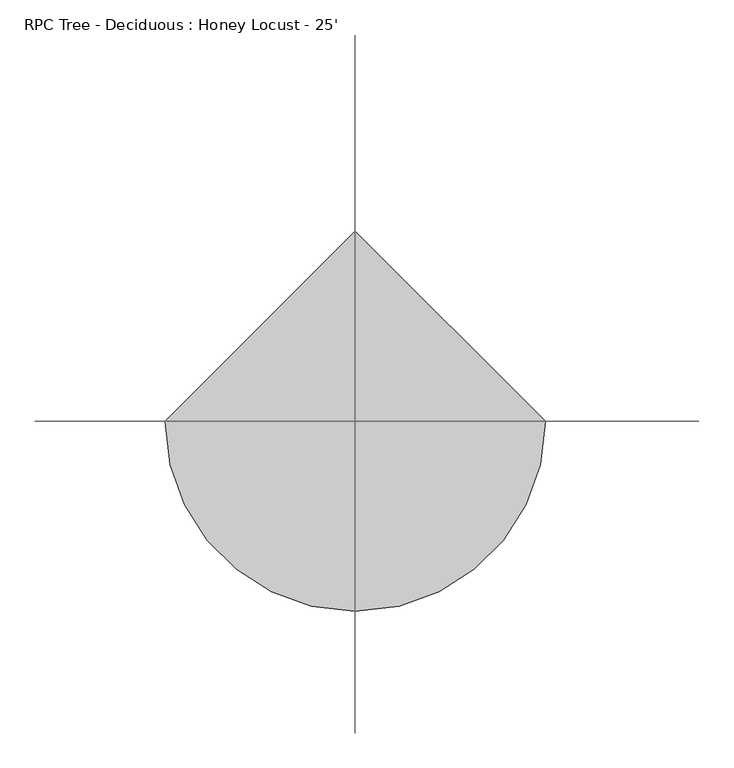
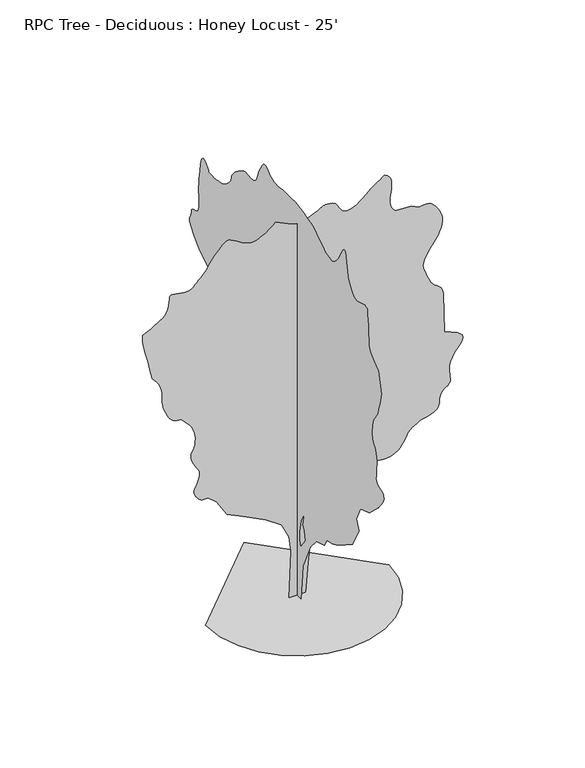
"""IFC4 building model written with IfcOpenShell, lengths in millimetres: geographic element geometry, RPC Tree - Deciduous : Honey Locust - 25'."""

from ifc_helpers import new_model, si_unit, origin, place, context, project, spatial, triangles, source, transform, mapped, element, save


def rpc_tree_deciduous_honey_locust_25_cc46a1f1(model_context):
    return source(origin(), model_context, "Body", "Tessellation", [
        triangles([(0.0017564, 138.2462219, 0.0), (0.0017564, -127.0105432, 0.0), (0.0017564, -184.6753374, 668.9082985), (0.0017564, -426.8668951, 1176.3566122), (0.0017564, -611.3926231, 1395.4822632), (0.0017564, -865.1155083, 1476.2135273), (0.0017564, -934.3152088, 1614.6078415), (0.0017564, -1118.8409369, 1660.7391827), (0.0017564, -1168.1321142, 1679.0297813), (0.0017564, -1234.9772346, 1712.4509972), (0.0017564, -1316.4476978, 1758.4833618), (0.0017564, -1409.6173016, 1814.6021748), (0.0017564, -1511.5651485, 1878.2849155), (0.0017564, -1619.3626385, 1947.0122612), (0.0017564, -1730.0862579, 2018.2590752), (0.0017564, -1937.6776566, 2398.8447109), (0.0017564, -1856.9463924, 2583.3806854), (0.0017564, -1983.8091431, 2848.632518), (0.0017564, -2272.1318058, 2952.4168808), (0.0017564, -2537.389016, 3206.1371498), (0.0017564, -2543.9089668, 3214.0110878), (0.0017564, -2561.3334846, 3235.1946785), (0.0017564, -2586.4031754, 3266.0558762), (0.0017564, -2615.9435234, 3302.9873428), (0.0017564, -2646.6774033, 3342.3317436), (0.0017564, -2675.3794304, 3380.4573235), (0.0017564, -2698.8489281, 3413.7311646), (0.0017564, -2714.4444878, 3444.5414932), (0.0017564, -2721.9882133, 3476.5453537), (0.0017564, -2721.8358971, 3508.1684235), (0.0017564, -2714.4444878, 3537.73377), (0.0017564, -2700.1950668, 3563.6926506), (0.0017564, -2679.4940048, 3584.4190018), (0.0017564, -2652.7226738, 3598.2620522), (0.0017564, -2621.3536583, 3608.345739), (0.0017564, -2588.1556847, 3619.6488281), (0.0017564, -2555.5675575, 3633.3648514), (0.0017564, -2526.024884, 3650.7129204), (0.0017564, -2501.9153091, 3672.9124374), (0.0017564, -2485.67444, 3701.157225), (0.0017564, -2479.7233498, 3736.6663948), (0.0017564, -2481.5749809, 3780.2273987), (0.0017564, -2486.0453476, 3831.0780739), (0.0017564, -2491.5266991, 3887.9740196), (0.0017564, -2496.4008202, 3949.6961243), (0.0017564, -2499.0579254, 4015.0755638), (0.0017564, -2497.8818344, 4082.8426483), (0.0017564, -2491.2575294, 4151.8544243), (0.0017564, -2477.5720276, 4213.7541344), (0.0017564, -2458.0368828, 4262.9284584), (0.0017564, -2435.2733013, 4302.24757), (0.0017564, -2411.9053963, 4334.4801956), (0.0017564, -2390.5542286, 4362.4965088), (0.0017564, -2373.8434753, 4389.0902344), (0.0017564, -2364.3947788, 4417.1062569), (0.0017564, -2359.5864967, 4450.1263344), (0.0017564, -2355.5860142, 4489.1913918), (0.0017564, -2353.1983692, 4533.3113731), (0.0017564, -2353.2315067, 4581.4694801), (0.0017564, -2356.4927902, 4632.6250786), (0.0017564, -2363.7901646, 4685.8128204), (0.0017564, -2375.9288132, 4740.016198), (0.0017564, -2392.0679443, 4787.9461212), (0.0017564, -2410.4271435, 4825.3601166), (0.0017564, -2430.3991802, 4855.916391), (0.0017564, -2451.3794403, 4883.2722794), (0.0017564, -2472.7636002, 4911.0089584), (0.0017564, -2493.9471909, 4942.7843445), (0.0017564, -2514.3232727, 4982.2051941), (0.0017564, -2534.0944496, 5031.4045166), (0.0017564, -2553.8659172, 5089.0626251), (0.0017564, -2573.6269203, 5153.8075104), (0.0017564, -2593.4135033, 5224.1654251), (0.0017564, -2613.1747971, 5298.7905212), (0.0017564, -2632.9360909, 5376.2096329), (0.0017564, -2652.7226738, 5455.0763306), (0.0017564, -2548.9127312, 5835.6443802), (0.0017564, -2410.52612, 5939.4537415), (0.0017564, -2376.165136, 5966.8602081), (0.0017564, -2343.2136589, 5995.5625259), (0.0017564, -2313.0867188, 6026.9059616), (0.0017564, -2287.1965839, 6062.1863663), (0.0017564, -2266.9553776, 6102.6995911), (0.0017564, -2253.772752, 6149.7659042), (0.0017564, -2249.0662079, 6204.705574), (0.0017564, -2247.7225399, 6269.3992996), (0.0017564, -2243.9556187, 6343.7709229), (0.0017564, -2238.1721054, 6426.2187973), (0.0017564, -2230.7756092, 6515.1186035), (0.0017564, -2222.1675591, 6608.8704391), (0.0017564, -2212.7518547, 6705.8220795), (0.0017564, -2202.9347214, 6804.4247818), (0.0017564, -2185.5179066, 6814.1270966), (0.0017564, -2167.3950302, 6822.8393555), (0.0017564, -2147.8598854, 6829.5453415), (0.0017564, -2126.2064106, 6833.2026764), (0.0017564, -2101.7285442, 6832.8218857), (0.0017564, -2073.7199341, 6827.4117508), (0.0017564, -2041.4746639, 6815.9560547), (0.0017564, -2006.8748863, 6801.3255524), (0.0017564, -1972.2775795, 6787.914743), (0.0017564, -1937.6776566, 6776.9165771), (0.0017564, -1903.077879, 6769.5501663), (0.0017564, -1868.4805721, 6767.0357849), (0.0017564, -1833.8806492, 6770.5663834), (0.0017564, -1799.2833424, 6781.3616547), (0.0017564, -1765.6919334, 6801.5546082), (0.0017564, -1733.9191635, 6831.4504578), (0.0017564, -1703.6576385, 6869.42314), (0.0017564, -1674.6050514, 6913.8221741), (0.0017564, -1646.4618565, 6963.0982361), (0.0017564, -1618.9257465, 7015.5746841), (0.0017564, -1591.689473, 7069.6766144), (0.0017564, -1522.4922432, 7484.8646439), (0.0017564, -1510.0182953, 7494.262326), (0.0017564, -1496.8382858, 7500.8665741), (0.0017564, -1482.2460079, 7501.8060516), (0.0017564, -1465.5354, 7494.262326), (0.0017564, -1446.0002552, 7475.4413818), (0.0017564, -1422.9345119, 7442.4974625), (0.0017564, -1395.6321087, 7392.5865555), (0.0017564, -1366.480545, 7335.9952423), (0.0017564, -1337.5296959, 7284.4588531), (0.0017564, -1307.5703327, 7237.3669601), (0.0017564, -1275.393663, 7194.085881), (0.0017564, -1239.7855167, 7154.0296051), (0.0017564, -1199.5366653, 7116.6156097), (0.0017564, -1153.4407871, 7081.2078873), (0.0017564, -1100.9873028, 7057.7133911), (0.0017564, -1043.0880753, 7054.1827927), (0.0017564, -980.6472645, 7067.2889694), (0.0017564, -914.5768787, 7093.7047989), (0.0017564, -845.7836214, 7130.1287384), (0.0017564, -775.1741959, 7173.2069229), (0.0017564, -703.6555235, 7219.6128113), (0.0017564, -659.2741482, 7251.5405136), (0.0017564, -615.4946983, 7282.3758408), (0.0017564, -572.9269114, 7311.0014191), (0.0017564, -532.1751838, 7336.2748764), (0.0017564, -493.8440932, 7357.1282547), (0.0017564, -458.5406522, 7372.4186005), (0.0017564, -426.8668951, 7381.0547012), (0.0017564, -379.7931333, 7391.6464966), (0.0017564, -304.4771091, 7410.7220764), (0.0017564, -210.8004869, 7434.013678), (0.0017564, -108.6519436, 7457.3308594), (0.0017564, -7.915369, 7476.3808594), (0.0017564, 81.5235032, 7486.9726547), (0.0017564, 149.779584, 7484.8646439), (0.0017564, 204.0816928, 7478.1336594), (0.0017564, 257.9799291, 7476.2541229), (0.0017564, 311.0709472, 7476.9907059), (0.0017564, 362.9529548, 7478.1336594), (0.0017564, 413.2194723, 7477.4732346), (0.0017564, 461.4692888, 7472.7485229), (0.0017564, 507.2984682, 7461.8015167), (0.0017564, 555.4821914, 7451.6666702), (0.0017564, 608.9110522, 7450.0156082), (0.0017564, 664.3541433, 7455.4513229), (0.0017564, 718.5906584, 7466.5000671), (0.0017564, 768.3873281, 7481.7909943), (0.0017564, 810.5182594, 7499.9265152), (0.0017564, 841.7526175, 7519.4590439), (0.0017564, 869.6950979, 7543.2081757), (0.0017564, 902.8827524, 7570.9704346), (0.0017564, 939.4967966, 7596.9293152), (0.0017564, 977.728838, 7615.2171524), (0.0017564, 1015.7551506, 7619.9924423), (0.0017564, 1051.7671967, 7605.3875198), (0.0017564, 1083.943939, 7565.5858795), (0.0017564, 1111.584185, 7516.9952408), (0.0017564, 1135.5896965, 7477.701709), (0.0017564, 1156.5725727, 7444.2496811), (0.0017564, 1175.132341, 7413.2114594), (0.0017564, 1191.8760138, 7381.1564392), (0.0017564, 1207.410676, 7344.6819214), (0.0017564, 1222.3407967, 7300.3334656), (0.0017564, 1236.6967518, 7254.9693741), (0.0017564, 1251.0554684, 7217.07285), (0.0017564, 1266.8236919, 7185.6526749), (0.0017564, 1285.4164524, 7159.6432159), (0.0017564, 1308.248489, 7138.103833), (0.0017564, 1336.7269833, 7119.9683121), (0.0017564, 1372.2666744, 7104.2710144), (0.0017564, 1413.6914715, 7095.1529663), (0.0017564, 1457.9408054, 7094.9239105), (0.0017564, 1503.6022625, 7099.7247803), (0.0017564, 1549.2612488, 7105.7447617), (0.0017564, 1593.5105827, 7109.1480423), (0.0017564, 1634.9353798, 7106.0999725), (0.0017564, 1672.1235168, 7092.7397415), (0.0017564, 1714.3205051, 7068.3051865), (0.0017564, 1768.2192501, 7035.5897415), (0.0017564, 1828.5747231, 6996.1944717), (0.0017564, 1890.1391338, 6951.7954376), (0.0017564, 1947.6700699, 6903.9419632), (0.0017564, 1995.9198864, 6854.2845291), (0.0017564, 2029.6434093, 6804.4247818), (0.0017564, 2047.5985634, 6762.5657089), (0.0017564, 2056.0720287, 6732.1873306), (0.0017564, 2061.1140175, 6707.879512), (0.0017564, 2068.7821541, 6684.1809586), (0.0017564, 2085.1219997, 6655.6315384), (0.0017564, 2116.1913242, 6616.7949554), (0.0017564, 2168.0377235, 6562.2360764), (0.0017564, 2230.1762272, 6507.9306702), (0.0017564, 2288.0754547, 6470.9736237), (0.0017564, 2341.7380222, 6447.5297058), (0.0017564, 2391.1637844, 6433.7881027), (0.0017564, 2436.3553574, 6425.8885849), (0.0017564, 2477.3077995, 6419.9959213), (0.0017564, 2514.0259071, 6412.2998795), (0.0017564, 2553.510125, 6405.0352066), (0.0017564, 2599.6366699, 6402.2161926), (0.0017564, 2647.7694878, 6402.6225632), (0.0017564, 2693.3117661, 6405.0352066), (0.0017564, 2731.5640823, 6408.2611725), (0.0017564, 2757.9293335, 6411.0807678), (0.0017564, 2767.7589661, 6412.2998795), (0.0017564, 2779.3922676, 6430.4609802), (0.0017564, 2809.9738312, 6472.8281616), (0.0017564, 2853.0775955, 6521.2403229), (0.0017564, 2902.2519196, 6557.5625244), (0.0017564, 2950.9945839, 6563.6075043), (0.0017564, 2992.9045258, 6521.2403229), (0.0017564, 3021.4792351, 6412.2998795), (0.0017564, 3039.1830963, 6281.2613663), (0.0017564, 3053.0770157, 6180.2965988), (0.0017564, 3063.5417839, 6102.7251709), (0.0017564, 3070.9584824, 6041.8916748), (0.0017564, 3075.7846413, 5991.1680267), (0.0017564, 3078.3751808, 5943.8482407), (0.0017564, 3079.1373436, 5893.3274872), (0.0017564, 3077.918232, 5838.9459229), (0.0017564, 3075.0986366, 5784.5899384), (0.0017564, 3071.8729614, 5730.2089554), (0.0017564, 3069.4600273, 5675.8273911), (0.0017564, 3069.0536568, 5621.4714066), (0.0017564, 3071.8729614, 5567.0904236), (0.0017564, 3079.1373436, 5512.7344391), (0.0017564, 3099.1779808, 5469.782991), (0.0017564, 3134.966494, 5444.6112717), (0.0017564, 3179.5942932, 5429.5238205), (0.0017564, 3226.2792343, 5416.8495941), (0.0017564, 3268.113018, 5398.9169678), (0.0017564, 3298.2376328, 5368.0816406), (0.0017564, 3309.7944855, 5316.6719879), (0.0017564, 3318.6843498, 5264.1193817), (0.0017564, 3338.4456436, 5228.1023941), (0.0017564, 3358.8164932, 5198.3588608), (0.0017564, 3369.5097359, 5164.551622), (0.0017564, 3360.2387901, 5116.4440933), (0.0017564, 3320.6912041, 5043.7235321), (0.0017564, 3240.6051041, 4936.0789398), (0.0017564, 3137.9128258, 4824.090136), (0.0017564, 3039.0560692, 4740.5243065), (0.0017564, 2946.4477684, 4678.5737274), (0.0017564, 2862.5264374, 4631.3298088), (0.0017564, 2789.7047195, 4591.9598282), (0.0017564, 2730.395549, 4553.5804848), (0.0017564, 2687.0124413, 4509.3590561), (0.0017564, 2658.1580978, 4464.7821259), (0.0017564, 2638.3970947, 4426.6568367), (0.0017564, 2624.0715157, 4390.1317406), (0.0017564, 2611.574604, 4350.4059677), (0.0017564, 2597.249025, 4302.5777824), (0.0017564, 2577.462442, 4241.8466057), (0.0017564, 2548.6333878, 4163.3859879), (0.0017564, 2517.7242279, 4078.1182274), (0.0017564, 2493.4823936, 3999.5052933), (0.0017564, 2474.7855698, 3926.4298119), (0.0017564, 2460.5312073, 3857.7988266), (0.0017564, 2449.6039673, 3792.521125), (0.0017564, 2440.8943245, 3729.4275925), (0.0017564, 2433.294643, 3667.4770134), (0.0017564, 2455.3521629, 3642.6102173), (0.0017564, 2476.2994308, 3616.9562599), (0.0017564, 2495.0267761, 3589.7021095), (0.0017564, 2510.4267082, 3560.0097359), (0.0017564, 2521.3894112, 3527.0913963), (0.0017564, 2526.8021622, 3490.1343498), (0.0017564, 2525.5600868, 3448.3514351), (0.0017564, 2526.3652702, 3406.9748909), (0.0017564, 2533.4264671, 3370.2718987), (0.0017564, 2538.8723557, 3335.7786552), (0.0017564, 2534.8385902, 3301.0569374), (0.0017564, 2513.4544304, 3263.7443893), (0.0017564, 2466.850589, 3221.3772079), (0.0017564, 2387.1633018, 3171.5424591), (0.0017564, 2299.4063038, 3131.0039452), (0.0017564, 2230.2092194, 3111.2173622), (0.0017564, 2174.1235439, 3101.9464165), (0.0017564, 2125.7061504, 3092.878656), (0.0017564, 2079.5060635, 3073.7016289), (0.0017564, 2030.0803013, 3034.1540428), (0.0017564, 1971.9778885, 2963.9484444), (0.0017564, 1918.922406, 2886.046804), (0.0017564, 1885.02869, 2826.5091591), (0.0017564, 1865.4579369, 2779.671611), (0.0017564, 1855.3716339, 2739.8952599), (0.0017564, 1849.9258907, 2701.5159164), (0.0017564, 1844.2769623, 2658.9202606), (0.0017564, 1833.5835743, 2606.4438126), (0.0017564, 1823.3625412, 2556.2026932), (0.0017564, 1818.1834969, 2520.8993248), (0.0017564, 1811.7953693, 2495.6822594), (0.0017564, 1797.9422905, 2475.7102226), (0.0017564, 1770.3705723, 2456.1393242), (0.0017564, 1722.8269627, 2432.1339581), (0.0017564, 1649.0577736, 2398.8447109), (0.0017564, 1567.2851486, 2366.9372108), (0.0017564, 1497.6180347, 2346.9297112), (0.0017564, 1436.6226299, 2333.7851646), (0.0017564, 1380.8747246, 2322.4516994), (0.0017564, 1326.9429874, 2307.8950298), (0.0017564, 1271.3957966, 2285.0629932), (0.0017564, 1210.806617, 2248.9188332), (0.0017564, 1144.870816, 2202.0812851), (0.0017564, 1075.9099091, 2151.0044609), (0.0017564, 1004.4242289, 2096.4021252), (0.0017564, 930.9242821, 2038.9727818), (0.0017564, 855.9105469, 1979.4251083), (0.0017564, 779.8858995, 1918.4651665), (0.0017564, 703.3583033, 1856.7991631), (0.0017564, 276.64129, 1533.8765774), (0.0017564, 149.779584, 1314.7509991), (0.0017564, 115.1805058, 1141.7593054), (0.0017564, 103.6476433, 876.5023132), (0.0020752, -103.9448272, 980.2967772), (0.0020752, -80.8791112, 1107.1595278), (0.0020752, -80.8791112, 1268.6195126), (0.0020752, -127.0105432, 1499.2792706), (0.0020752, -230.8067694, 1706.8706692), (0.0020752, -184.6753374, 1453.147784), (0.0020752, -230.8067694, 1372.4165199), (0.0020752, -265.4043305, 1199.4223555), (154.7882082, 0.0004434, 0.0162828), (-145.0671264, 0.0004434, 0.0162828), (-110.4685569, 0.0003925, 876.5175739), (-145.0671264, 0.000378, 1164.8403093), (-283.4611681, 0.0003635, 1441.6288651), (-560.2523217, 0.0003489, 1637.6887001), (-963.9036644, 0.0003344, 1845.2827148), (-1263.7605068, 0.0003271, 1983.677029), (-1459.8203419, 0.0003126, 2295.065435), (-1609.7462196, 0.000298, 2421.9281857), (-1636.8810459, 0.0003053, 2419.6396626), (-1663.7135651, 0.0003053, 2418.4637169), (-1689.9389992, 0.0003053, 2419.5050777), (-1715.2578026, 0.000298, 2423.8764679), (-1739.3649067, 0.000298, 2432.6877033), (-1761.9606205, 0.000298, 2447.0436584), (-1782.7404568, 0.000298, 2468.0595268), (-1802.9155334, 0.000298, 2493.4774521), (-1822.6843849, 0.000298, 2520.3098259), (-1840.2357845, 0.0002908, 2548.5572296), (-1853.7537094, 0.0002908, 2578.199025), (-1861.4193752, 0.0002908, 2609.2886971), (-1861.4193752, 0.0002908, 2641.7497971), (-1851.9375412, 0.0002835, 2675.6587738), (-1833.5784874, 0.0002835, 2714.1904335), (-1810.985099, 0.0002835, 2759.3769196), (-1788.3893852, 0.0002762, 2809.4148537), (-1770.0301861, 0.0002762, 2862.4755684), (-1760.1445976, 0.000269, 2916.7298149), (-1762.9689892, 0.000269, 2970.4000854), (-1782.7404568, 0.000269, 3021.631842), (-1812.8012672, 0.0002617, 3069.7646599), (-1842.4557072, 0.0002617, 3115.6624397), (-1869.8928406, 0.0002544, 3159.9347374), (-1893.2963539, 0.0002544, 3203.2161072), (-1910.8477535, 0.0002544, 3246.0658173), (-1920.7308712, 0.0002471, 3289.1442924), (-1921.134771, 0.0002471, 3333.0355087), (-1913.6366821, 0.0002471, 3370.6526894), (-1902.1049732, 0.0002399, 3398.1864738), (-1888.1503017, 0.0002399, 3421.0972847), (-1873.3903015, 0.0002399, 3444.7952568), (-1859.43563, 0.0002399, 3474.7419754), (-1847.9014503, 0.0002399, 3516.397863), (-1840.4059776, 0.0002326, 3575.2242142), (-1839.1614315, 0.0002253, 3640.3751793), (-1844.5740372, 0.0002253, 3698.2870514), (-1855.534124, 0.0002253, 3750.1283638), (-1870.9342014, 0.0002181, 3797.143808), (-1889.6641628, 0.0002181, 3840.5016266), (-1910.6114307, 0.0002181, 3881.4718002), (-1932.6688053, 0.0002108, 3921.1972824), (-2094.1288628, 0.0002035, 4094.1966064), (-2131.1822697, 0.0002035, 4094.6791351), (-2168.1342293, 0.0002035, 4097.9556793), (-2204.8854744, 0.0002035, 4106.8964127), (-2241.3344124, 0.0002035, 4124.3209305), (-2277.3769798, 0.0001963, 4153.0482468), (-2312.9191418, 0.0001963, 4195.8726677), (-2347.8542187, 0.000189, 4255.6640762), (-2378.9895275, 0.000189, 4321.6024933), (-2403.4675392, 0.0001817, 4382.0799065), (-2421.6893921, 0.0001817, 4438.7470871), (-2434.0643635, 0.0001817, 4493.1792297), (-2440.9908302, 0.0001745, 4547.0018166), (-2442.8729828, 0.0001745, 4601.8403297), (-2440.1170464, 0.0001672, 4659.3205421), (-2439.9138611, 0.0001672, 4717.8166809), (-2448.3874718, 0.0001599, 4774.3062561), (-2464.3234177, 0.0001599, 4828.1797119), (-2486.5177025, 0.0001527, 4878.801622), (-2513.751796, 0.0001527, 4925.6138809), (-2544.8234459, 0.0001527, 4967.9810623), (-2578.5039482, 0.0001454, 5005.2933197), (-2606.1136002, 0.0001454, 5036.2053864), (-2622.8268242, 0.0001454, 5064.6786484), (-2633.2915924, 0.0001454, 5098.2068344), (-2642.1308784, 0.0001381, 5144.2313507), (-2653.9926544, 0.0001381, 5210.2459259), (-2673.5251831, 0.0001308, 5303.6669678), (-2705.3767273, 0.0001236, 5432.0132034), (-2739.5397583, 0.0001163, 5564.8295151), (-2764.0251823, 0.000109, 5669.807991), (-2780.4334831, 0.0001018, 5751.5704422), (-2790.3651443, 0.0001018, 5814.7910019), (-2795.4959358, 9.45e-05, 5864.0920624), (-2797.3754723, 9.45e-05, 5904.0971786), (-2797.6295265, 9.45e-05, 5939.4537415), (-2780.0526924, 9.45e-05, 5947.0736252), (-2760.7486382, 9.45e-05, 5955.7608856), (-2738.0157234, 8.72e-05, 5966.7078918), (-2710.1520172, 8.72e-05, 5980.9576035), (-2675.4047195, 8.72e-05, 5999.6518112), (-2632.0977699, 8.72e-05, 6023.8834717), (-2578.5039482, 8.72e-05, 6054.794957), (-2522.6948547, 8e-05, 6086.4941849), (-2473.739122, 8e-05, 6114.9674469), (-2431.4405411, 8e-05, 6144.0761353), (-2395.5985428, 8e-05, 6177.5787415), (-2366.0102325, 7.27e-05, 6219.387236), (-2342.4746052, 7.27e-05, 6273.2856903), (-2324.7886208, 6.54e-05, 6343.110498), (-2314.1282249, 6.54e-05, 6412.6556717), (-2308.7154739, 5.82e-05, 6464.4205353), (-2303.9071918, 5.82e-05, 6500.4631027), (-2295.0629642, 5.82e-05, 6522.7896469), (-2277.5471729, 5.82e-05, 6533.4320206), (-2246.7141712, 5.82e-05, 6534.3720795), (-2197.9258701, 5.82e-05, 6527.641095), (-2140.092627, 5.82e-05, 6517.4300903), (-2085.4878204, 5.82e-05, 6508.0068283), (-2034.5150597, 5.82e-05, 6501.6060562), (-1987.575919, 5.82e-05, 6500.4631027), (-1945.0767689, 5.82e-05, 6506.7877167), (-1907.4187477, 5.82e-05, 6522.7896469), (-1875.0032845, 5.82e-05, 6550.7042221), (-1844.541045, 5.09e-05, 6583.0894547), (-1812.0595974, 5.09e-05, 6613.4422531), (-1776.9567982, 5.09e-05, 6645.4205338), (-1738.6257076, 5.09e-05, 6682.6572144), (-1696.4617115, 4.36e-05, 6728.7578888), (-1649.8604862, 4.36e-05, 6787.3560562), (-1598.2146561, 3.63e-05, 6862.1078888), (-1546.1980637, 2.91e-05, 6938.7142593), (-1498.4181313, 2.91e-05, 7002.036557), (-1454.1714134, 2.91e-05, 7054.2589508), (-1412.7466164, 2.18e-05, 7097.5911896), (-1373.4401493, 2.18e-05, 7134.268602), (-1335.5459507, 2.18e-05, 7166.5265167), (-1298.3578136, 1.45e-05, 7196.5496841), (-1288.0707962, 1.45e-05, 7208.5129074), (-1275.3606709, 1.45e-05, 7218.1646439), (-1257.8092712, 1.45e-05, 7223.193988), (-1232.9934895, 1.45e-05, 7221.2382935), (-1198.4952318, 1.45e-05, 7210.0116531), (-1151.8939339, 1.45e-05, 7187.1770004), (-1090.7663424, 2.18e-05, 7150.4228485), (-1026.7456861, 2.18e-05, 7109.5544128), (-971.2010387, 2.18e-05, 7076.382019), (-921.3027763, 2.91e-05, 7051.4649353), (-874.2290508, 2.91e-05, 7035.4374252), (-827.1577961, 2.91e-05, 7028.858757), (-777.2595337, 2.91e-05, 7032.3893555), (-721.7123428, 2.91e-05, 7046.6134872), (-664.755427, 2.18e-05, 7068.7365555), (-612.0327003, 2.18e-05, 7095.1018066), (-562.8405722, 2.18e-05, 7124.9976563), (-516.4729082, 2.18e-05, 7157.7131012), (-472.226154, 1.45e-05, 7192.5615555), (-429.3891249, 1.45e-05, 7228.8075989), (-387.2581573, 1.45e-05, 7265.7390656), (-168.1328515, 2.18e-05, 7161.9547028), (-133.3996518, 2.18e-05, 7144.8603973), (-97.8597517, 2.18e-05, 7129.1125214), (-60.7056832, 2.18e-05, 7115.9551849), (-21.1306711, 2.18e-05, 7106.7348175), (21.6722237, 2.18e-05, 7102.77285), (68.5100806, 2.18e-05, 7105.3633896), (120.1896296, 2.18e-05, 7115.8284485), (179.9390167, 2.18e-05, 7135.6656097), (246.5473965, 2.18e-05, 7162.9709198), (314.1646537, 1.45e-05, 7193.9079849), (376.9406911, 1.45e-05, 7224.6165756), (429.0233405, 1.45e-05, 7251.3120392), (464.5629953, 1.45e-05, 7270.1585632), (477.7100126, 1.45e-05, 7277.2703384), (487.5271096, 1.45e-05, 7279.4550888), (513.8897447, 1.45e-05, 7283.4682159), (552.1522711, 1.45e-05, 7285.4494904), (597.6791797, 1.45e-05, 7281.5886795), (645.8273672, 1.45e-05, 7268.0249725), (691.9587811, 1.45e-05, 7240.9737167), (731.4328978, 1.45e-05, 7196.5496841), (761.0238968, 2.18e-05, 7148.2642593), (783.1472557, 2.18e-05, 7111.0787384), (801.640967, 2.18e-05, 7083.3670578), (820.3353928, 2.18e-05, 7063.5298965), (843.065764, 2.91e-05, 7049.9406097), (873.6625883, 2.91e-05, 7040.9998764), (915.9611692, 2.91e-05, 7035.081633), (967.9092339, 2.91e-05, 7039.3999741), (1023.6901314, 2.18e-05, 7059.6435059), (1081.4903097, 2.18e-05, 7091.9775787), (1139.4911299, 2.18e-05, 7132.5925415), (1195.8764963, 1.45e-05, 7177.6520004), (1248.8354004, 1.45e-05, 7223.3207245), (1296.5467323, 1.45e-05, 7265.7390656), (1340.3591743, 7.3e-06, 7303.2803787), (1382.9600624, 7.3e-06, 7337.1637756), (1424.5524364, 7.3e-06, 7368.0246826), (1465.3373016, 7.3e-06, 7396.4723648), (1505.5174072, 0.0, 7423.1172501), (1545.2937584, 0.0, 7448.5168625), (1584.8695404, 0.0, 7473.3327896), (1611.8696365, 0.0, 7460.5568253), (1637.7599167, 0.0, 7445.2658981), (1661.4301289, 0.0, 7424.9206284), (1681.7729279, 7.3e-06, 7397.0060532), (1697.6758816, 7.3e-06, 7359.0327896), (1708.0339703, 7.3e-06, 7308.4108795), (1711.732291, 1.45e-05, 7242.6759384), (1708.6384392, 2.18e-05, 7173.2069229), (1701.1073582, 2.18e-05, 7112.0182159), (1691.7602543, 2.18e-05, 7057.4843353), (1683.2181885, 2.91e-05, 7007.9797989), (1678.1077446, 2.91e-05, 6961.9297028), (1679.0501289, 3.63e-05, 6917.6829849), (1688.6665478, 3.63e-05, 6873.639743), (1703.4950031, 3.63e-05, 6833.8631012), (1718.3209877, 4.36e-05, 6802.5452454), (1733.1494431, 4.36e-05, 6778.3135849), (1747.9780437, 4.36e-05, 6759.7205338), (1762.8064991, 4.36e-05, 6745.3440857), (1777.6324837, 4.36e-05, 6733.8128128), (1792.460939, 4.36e-05, 6723.7035461), (2069.2520382, 4.36e-05, 6712.1716919), (2207.6463524, 5.09e-05, 6642.9823105), (2217.499094, 5.09e-05, 6645.8524841), (2244.0954357, 5.09e-05, 6651.9742035), (2282.9953869, 5.09e-05, 6657.485495), (2329.7669506, 5.09e-05, 6658.5778702), (2379.9675201, 5.09e-05, 6651.3899368), (2429.1595757, 5.09e-05, 6632.0858826), (2472.9034172, 5.09e-05, 6596.8304764), (2512.6797684, 5.82e-05, 6549.0025818), (2551.0463219, 5.82e-05, 6495.1035461), (2585.1840637, 6.54e-05, 6436.1501678), (2612.2350288, 6.54e-05, 6373.1836624), (2629.4307816, 7.27e-05, 6307.1690872), (2633.9011482, 7.27e-05, 6239.1482391), (2622.8268242, 8e-05, 6170.111174), (2602.049604, 8e-05, 6105.620343), (2579.4690056, 8.72e-05, 6049.6132965), (2555.3390831, 8.72e-05, 6000.6680283), (2530.0304535, 8.72e-05, 5957.360788), (2503.8024033, 9.45e-05, 5918.2701508), (2476.9726456, 9.45e-05, 5882.0246887), (2449.837674, 9.45e-05, 5847.2012329), (2408.2121624, 0.0001018, 5785.5299973), (2368.9058407, 0.0001018, 5724.5703461), (2334.2399334, 0.000109, 5665.0327011), (2306.5336304, 0.000109, 5607.603067), (2288.1084469, 0.0001163, 5552.9930283), (2281.2834274, 0.0001163, 5501.9141693), (2288.3777618, 0.0001236, 5455.0763306), (2303.2722015, 0.0001236, 5411.8202499), (2318.5706863, 0.0001236, 5370.1390732), (2334.6768253, 0.0001308, 5328.8892654), (2351.9919022, 0.0001308, 5286.8267166), (2370.922578, 0.0001308, 5242.7578949), (2391.869846, 0.0001381, 5195.4375275), (2415.2378963, 0.0001381, 5143.6982437), (2445.5678764, 0.0001454, 5097.4190918), (2484.1684273, 0.0001454, 5063.0531662), (2526.5989769, 0.0001454, 5034.1479538), (2568.4199707, 0.0001454, 5004.2265244), (2605.2247009, 0.0001527, 4966.8381088), (2632.5041405, 0.0001527, 4915.5301941), (2645.8899513, 0.0001599, 4843.8258499), (2668.9530785, 0.0002035, 4105.72817), (2899.6102203, 0.0002108, 4001.9438072), (2935.957711, 0.0002108, 3979.3123398), (2967.9871513, 0.0002108, 3954.3696762), (2991.3043327, 0.0002108, 3924.7787498), (3001.6420738, 0.0002108, 3888.2280739), (2994.6061661, 0.0002181, 3842.381163), (2965.9041389, 0.0002181, 3784.9518196), (2911.1417839, 0.0002253, 3713.6032677), (2850.7916885, 0.0002326, 3637.2509514), (2806.7987343, 0.0002326, 3565.9279793), (2777.1063606, 0.0002399, 3499.049794), (2759.707132, 0.0002399, 3436.0068398), (2752.6206459, 0.0002471, 3376.1901421), (2753.7891792, 0.0002471, 3319.0145622), (2761.2311668, 0.0002544, 3263.8205475), (2769.4861862, 0.0002544, 3214.1381149), (2773.7280785, 0.0002544, 3172.7107018), (2772.7374413, 0.0002617, 3137.9384056), (2765.2698738, 0.0002617, 3108.2201614), (2750.1315536, 0.0002617, 3081.9313591), (2726.1283676, 0.0002617, 3057.4456444), (2692.0162056, 0.0002617, 3033.1634056), (2656.5834846, 0.000269, 3007.7126335), (2628.8212257, 0.000269, 2980.6616684), (2607.8916893, 0.000269, 2951.756456), (2593.0327126, 0.000269, 2920.8699692), (2583.4315544, 0.0002762, 2887.7484444), (2578.249894, 0.0002762, 2852.2139854), (2576.7002792, 0.0002762, 2814.0378273), (2574.4905304, 0.0002835, 2776.5473831), (2567.4293335, 0.0002835, 2742.8924606), (2554.9071327, 0.0002835, 2712.6663986), (2536.3501259, 0.0002835, 2685.4631172), (2511.1330605, 0.0002908, 2660.9012444), (2478.6539383, 0.0002908, 2638.5238312), (2438.3036396, 0.0002908, 2617.9753761), (2396.3758209, 0.0002908, 2601.9734459), (2358.4816223, 0.0002908, 2591.6357048), (2323.0080608, 0.0002908, 2584.0916885), (2288.3421535, 0.0002908, 2576.5735428), (2252.8710629, 0.0002908, 2566.2102219), (2214.9768642, 0.0002908, 2550.2082916), (2173.0465748, 0.000298, 2525.7225769), (2134.3801849, 0.000298, 2501.648465), (2105.1956291, 0.000298, 2485.6439186), (2082.2644707, 0.000298, 2473.0685234), (2062.3585636, 0.000298, 2459.2838997), (2042.2519421, 0.000298, 2439.6473076), (2018.7163147, 0.0003053, 2409.5203674), (1988.5207741, 0.0003053, 2364.2626648), (1957.3856106, 0.0003053, 2310.7346821), (1930.083062, 0.0003126, 2259.4242966), (1901.9730045, 0.0003126, 2211.1414879), (1868.4170586, 0.0003198, 2166.6889687), (1824.7748096, 0.0003198, 2126.8796253), (1766.4030819, 0.0003198, 2092.5158798), (1688.6665478, 0.0003198, 2064.4058224), (1611.2981598, 0.0003271, 2049.7144226), (1552.6928707, 0.0003271, 2049.9481293), (1506.1906219, 0.0003198, 2057.4462181), (1465.1365871, 0.0003198, 2064.5404072), (1422.8709984, 0.0003198, 2063.5676468), (1372.7390293, 0.0003271, 2046.8544228), (1308.0784412, 0.0003271, 2006.7427723), (1236.0922829, 0.0003271, 1957.583709), (1168.5411009, 0.0003344, 1917.1011509), (1105.630406, 0.0003344, 1882.6715664), (1047.5635288, 0.0003344, 1851.6708424), (994.5385677, 0.0003344, 1821.4753017), (946.7611788, 0.0003416, 1789.4663544), (904.4270622, 0.0003416, 1753.0174164), (863.5407497, 0.0003416, 1713.1393272), (820.2337275, 0.0003489, 1672.6569145), (774.9100405, 0.0003489, 1631.6714802), (727.9708998, 0.0003489, 1590.2796753), (679.8201324, 0.0003562, 1548.5857086), (630.8642544, 0.0003562, 1506.6908821), (581.50702, 0.0003562, 1464.6946083), (339.3157348, 0.000378, 1176.3718729), (235.5192361, 0.0003925, 899.5832445), (200.9196402, 0.0004143, 542.0633883), (-1658.5903313, 0.0, 0.0172132), (-1614.7424263, -380.0394845, 0.0172132), (-1489.866037, -729.0453255, 0.0172132), (-1293.9560474, -1037.0174429, 0.0172132), (-1037.0174429, -1293.9560474, 0.0172132), (-729.0453255, -1489.866037, 0.0172132), (-380.0394845, -1614.7424263, 0.0172132), (7.25e-05, -1658.5903313, 0.0172132), (380.0394845, -1614.7424263, 0.0172132), (729.0453255, -1489.866037, 0.0172132), (1037.0174429, -1293.9560474, 0.0172132), (1293.9560474, -1037.0174429, 0.0172132), (1489.866037, -729.0453255, 0.0172132), (1614.7424263, -380.0394845, 0.0172132), (1658.5903313, 0.0001454, 0.0172132), (-0.0002175, 1658.5903313, 0.0172132)], [[328, 1, 329], [327, 328, 329], [327, 329, 330], [329, 1, 2], [329, 2, 3], [329, 3, 4], [336, 329, 4], [327, 330, 331], [326, 327, 331], [326, 331, 332], [325, 326, 332], [335, 336, 4], [335, 4, 5], [325, 332, 333], [334, 335, 5], [333, 334, 5], [333, 5, 6], [333, 6, 7], [324, 325, 333], [91, 92, 93], [223, 224, 225], [222, 223, 225], [222, 225, 226], [221, 222, 226], [220, 221, 226], [220, 226, 227], [219, 220, 227], [219, 227, 228], [15, 16, 17], [91, 93, 94], [91, 94, 95], [91, 95, 96], [91, 96, 97], [91, 97, 98], [91, 98, 99], [91, 99, 100], [90, 91, 100], [90, 100, 101], [90, 101, 102], [89, 90, 102], [89, 102, 103], [88, 89, 103], [88, 103, 104], [218, 219, 228], [14, 15, 17], [218, 228, 229], [217, 218, 229], [216, 217, 229], [216, 229, 230], [215, 216, 230], [215, 230, 231], [214, 215, 231], [214, 231, 232], [214, 232, 233], [214, 233, 234], [213, 214, 234], [213, 234, 235], [113, 114, 115], [113, 115, 116], [113, 116, 117], [113, 117, 118], [113, 118, 119], [113, 119, 120], [113, 120, 121], [113, 121, 122], [113, 122, 123], [113, 123, 124], [113, 124, 125], [113, 125, 126], [113, 126, 127], [112, 113, 127], [112, 127, 128], [111, 112, 128], [110, 111, 128], [213, 235, 236], [87, 88, 104], [87, 104, 105], [212, 213, 236], [110, 128, 129], [109, 110, 129], [212, 236, 237], [211, 212, 237], [210, 211, 237], [86, 87, 105], [210, 237, 238], [209, 210, 238], [85, 86, 105], [76, 77, 78], [75, 76, 78], [13, 14, 17], [209, 238, 239], [85, 105, 106], [208, 209, 239], [74, 75, 78], [108, 109, 129], [74, 78, 79], [73, 74, 79], [84, 85, 106], [73, 79, 80], [72, 73, 80], [71, 72, 80], [208, 239, 240], [70, 71, 80], [69, 70, 80], [68, 69, 80], [67, 68, 80], [66, 67, 80], [65, 66, 80], [65, 80, 81], [64, 65, 81], [12, 13, 17], [245, 246, 247], [244, 245, 247], [243, 244, 247], [243, 247, 248], [64, 81, 82], [63, 64, 82], [242, 243, 248], [323, 324, 333], [167, 168, 169], [167, 169, 170], [166, 167, 170], [166, 170, 171], [165, 166, 171], [164, 165, 171], [164, 171, 172], [163, 164, 172], [163, 172, 173], [163, 173, 174], [162, 163, 174], [162, 174, 175], [162, 175, 176], [162, 176, 177], [161, 162, 177], [161, 177, 178], [161, 178, 179], [160, 161, 179], [160, 179, 180], [159, 160, 180], [159, 180, 181], [158, 159, 181], [11, 12, 17], [250, 251, 252], [249, 250, 252], [249, 252, 253], [248, 249, 253], [242, 248, 253], [242, 253, 254], [242, 254, 255], [241, 242, 255], [241, 255, 256], [241, 256, 257], [241, 257, 258], [241, 258, 259], [240, 241, 259], [208, 240, 259], [208, 259, 260], [208, 260, 261], [207, 208, 261], [206, 207, 261], [206, 261, 262], [206, 262, 263], [205, 206, 263], [205, 263, 264], [204, 205, 264], [204, 264, 265], [204, 265, 266], [204, 266, 267], [204, 267, 268], [204, 268, 269], [203, 204, 269], [10, 11, 17], [9, 10, 17], [8, 9, 17], [7, 8, 17], [333, 7, 17], [323, 333, 17], [322, 323, 17], [322, 17, 18], [321, 322, 18], [320, 321, 18], [319, 320, 18], [318, 319, 18], [317, 318, 18], [316, 317, 18], [315, 316, 18], [203, 269, 270], [314, 315, 18], [18, 19, 20], [314, 18, 20], [314, 20, 21], [314, 21, 22], [314, 22, 23], [314, 23, 24], [314, 24, 25], [314, 25, 26], [314, 26, 27], [314, 27, 28], [314, 28, 29], [314, 29, 30], [314, 30, 31], [314, 31, 32], [314, 32, 33], [314, 33, 34], [314, 34, 35], [314, 35, 36], [314, 36, 37], [314, 37, 38], [314, 38, 39], [314, 39, 40], [314, 40, 41], [314, 41, 42], [314, 42, 43], [314, 43, 44], [314, 44, 45], [314, 45, 46], [314, 46, 47], [314, 47, 48], [314, 48, 49], [314, 49, 50], [314, 50, 51], [314, 51, 52], [314, 52, 53], [314, 53, 54], [314, 54, 55], [314, 55, 56], [314, 56, 57], [314, 57, 58], [314, 58, 59], [314, 59, 60], [314, 60, 61], [314, 61, 62], [313, 314, 62], [312, 313, 62], [311, 312, 62], [310, 311, 62], [309, 310, 62], [308, 309, 62], [307, 308, 62], [306, 307, 62], [305, 306, 62], [304, 305, 62], [303, 304, 62], [302, 303, 62], [301, 302, 62], [300, 301, 62], [299, 300, 62], [298, 299, 62], [297, 298, 62], [296, 297, 62], [295, 296, 62], [294, 295, 62], [294, 62, 63], [294, 63, 82], [294, 82, 83], [294, 83, 84], [294, 84, 106], [294, 106, 107], [294, 107, 108], [294, 108, 129], [294, 129, 130], [294, 130, 131], [294, 131, 132], [294, 132, 133], [294, 133, 134], [294, 134, 135], [294, 135, 136], [294, 136, 137], [294, 137, 138], [294, 138, 139], [294, 139, 140], [294, 140, 141], [294, 141, 142], [294, 142, 143], [294, 143, 144], [294, 144, 145], [294, 145, 146], [294, 146, 147], [294, 147, 148], [294, 148, 149], [294, 149, 150], [294, 150, 151], [294, 151, 152], [294, 152, 153], [294, 153, 154], [294, 154, 155], [294, 155, 156], [294, 156, 157], [294, 157, 158], [294, 158, 181], [294, 181, 182], [294, 182, 183], [294, 183, 184], [294, 184, 185], [293, 294, 185], [293, 185, 186], [293, 186, 187], [292, 293, 187], [292, 187, 188], [292, 188, 189], [292, 189, 190], [292, 190, 191], [292, 191, 192], [292, 192, 193], [292, 193, 194], [292, 194, 195], [292, 195, 196], [292, 196, 197], [292, 197, 198], [292, 198, 199], [292, 199, 200], [292, 200, 201], [292, 201, 202], [292, 202, 203], [292, 203, 270], [292, 270, 271], [292, 271, 272], [292, 272, 273], [292, 273, 274], [292, 274, 275], [291, 292, 275], [290, 291, 275], [289, 290, 275], [289, 275, 276], [289, 276, 277], [289, 277, 278], [289, 278, 279], [289, 279, 280], [289, 280, 281], [289, 281, 282], [289, 282, 283], [288, 289, 283], [288, 283, 284], [287, 288, 284], [286, 287, 284], [285, 286, 284], [337, 338, 339], [677, 337, 339], [676, 677, 339], [676, 339, 340], [675, 676, 340], [423, 424, 425], [486, 487, 488], [675, 340, 341], [674, 675, 341], [529, 530, 531], [485, 486, 488], [484, 485, 488], [423, 425, 426], [529, 531, 532], [673, 674, 341], [673, 341, 342], [672, 673, 342], [671, 672, 342], [670, 671, 342], [669, 670, 342], [668, 669, 342], [667, 668, 342], [529, 532, 533], [528, 529, 533], [528, 533, 534], [528, 534, 535], [528, 535, 536], [527, 528, 536], [527, 536, 537], [526, 527, 537], [526, 537, 538], [525, 526, 538], [525, 538, 539], [524, 525, 539], [524, 539, 540], [523, 524, 540], [523, 540, 541], [522, 523, 541], [522, 541, 542], [521, 522, 542], [521, 542, 543], [520, 521, 543], [519, 520, 543], [519, 543, 544], [519, 544, 545], [518, 519, 545], [518, 545, 546], [517, 518, 546], [517, 546, 547], [422, 423, 426], [422, 426, 427], [441, 442, 443], [441, 443, 444], [440, 441, 444], [440, 444, 445], [439, 440, 445], [439, 445, 446], [438, 439, 446], [438, 446, 447], [438, 447, 448], [437, 438, 448], [437, 448, 449], [666, 667, 342], [421, 422, 427], [421, 427, 428], [421, 428, 429], [420, 421, 429], [420, 429, 430], [419, 420, 430], [419, 430, 431], [418, 419, 431], [418, 431, 432], [418, 432, 433], [417, 418, 433], [417, 433, 434], [416, 417, 434], [483, 484, 488], [436, 437, 449], [343, 344, 345], [666, 342, 343], [666, 343, 345], [665, 666, 345], [664, 665, 345], [663, 664, 345], [662, 663, 345], [661, 662, 345], [660, 661, 345], [659, 660, 345], [659, 345, 346], [517, 547, 548], [483, 488, 489], [416, 434, 435], [415, 416, 435], [482, 483, 489], [482, 489, 490], [436, 449, 450], [658, 659, 346], [414, 415, 435], [600, 601, 602], [599, 600, 602], [599, 602, 603], [598, 599, 603], [597, 598, 603], [597, 603, 604], [596, 597, 604], [596, 604, 605], [596, 605, 606], [596, 606, 607], [596, 607, 608], [516, 517, 548], [516, 548, 549], [413, 414, 435], [412, 413, 435], [411, 412, 435], [410, 411, 435], [409, 410, 435], [408, 409, 435], [407, 408, 435], [407, 435, 436], [407, 436, 450], [407, 450, 451], [406, 407, 451], [405, 406, 451], [405, 451, 452], [404, 405, 452], [404, 452, 453], [404, 453, 454], [404, 454, 455], [404, 455, 456], [551, 552, 553], [482, 490, 491], [481, 482, 491], [404, 456, 457], [467, 468, 469], [467, 469, 470], [466, 467, 470], [466, 470, 471], [466, 471, 472], [465, 466, 472], [465, 472, 473], [464, 465, 473], [463, 464, 473], [463, 473, 474], [462, 463, 474], [461, 462, 474], [461, 474, 475], [460, 461, 475], [459, 460, 475], [459, 475, 476], [458, 459, 476], [458, 476, 477], [457, 458, 477], [404, 457, 477], [404, 477, 478], [404, 478, 479], [404, 479, 480], [403, 404, 480], [403, 480, 481], [403, 481, 491], [403, 491, 492], [403, 492, 493], [402, 403, 493], [401, 402, 493], [400, 401, 493], [399, 400, 493], [398, 399, 493], [397, 398, 493], [396, 397, 493], [395, 396, 493], [394, 395, 493], [393, 394, 493], [392, 393, 493], [391, 392, 493], [390, 391, 493], [389, 390, 493], [388, 389, 493], [387, 388, 493], [386, 387, 493], [386, 493, 494], [385, 386, 494], [384, 385, 494], [384, 494, 495], [383, 384, 495], [383, 495, 496], [383, 496, 497], [382, 383, 497], [382, 497, 498], [382, 498, 499], [382, 499, 500], [381, 382, 500], [381, 500, 501], [381, 501, 502], [381, 502, 503], [381, 503, 504], [381, 504, 505], [381, 505, 506], [381, 506, 507], [381, 507, 508], [381, 508, 509], [381, 509, 510], [381, 510, 511], [381, 511, 512], [381, 512, 513], [381, 513, 514], [381, 514, 515], [381, 515, 516], [381, 516, 549], [381, 549, 550], [381, 550, 551], [381, 551, 553], [380, 381, 553], [379, 380, 553], [378, 379, 553], [378, 553, 554], [378, 554, 555], [378, 555, 556], [378, 556, 557], [378, 557, 558], [378, 558, 559], [378, 559, 560], [378, 560, 561], [378, 561, 562], [378, 562, 563], [378, 563, 564], [378, 564, 565], [378, 565, 566], [378, 566, 567], [378, 567, 568], [378, 568, 569], [378, 569, 570], [378, 570, 571], [378, 571, 572], [378, 572, 573], [378, 573, 574], [378, 574, 575], [378, 575, 576], [378, 576, 577], [378, 577, 578], [378, 578, 579], [378, 579, 580], [378, 580, 581], [378, 581, 582], [378, 582, 583], [378, 583, 584], [378, 584, 585], [378, 585, 586], [378, 586, 587], [378, 587, 588], [378, 588, 589], [378, 589, 590], [378, 590, 591], [378, 591, 592], [378, 592, 593], [378, 593, 594], [378, 594, 595], [378, 595, 596], [378, 596, 608], [378, 608, 609], [378, 609, 610], [378, 610, 611], [378, 611, 612], [378, 612, 613], [378, 613, 614], [378, 614, 615], [378, 615, 616], [378, 616, 617], [378, 617, 618], [378, 618, 619], [378, 619, 620], [378, 620, 621], [378, 621, 622], [378, 622, 623], [378, 623, 624], [378, 624, 625], [378, 625, 626], [378, 626, 627], [378, 627, 628], [378, 628, 629], [378, 629, 630], [378, 630, 631], [378, 631, 632], [378, 632, 633], [378, 633, 634], [378, 634, 635], [378, 635, 636], [378, 636, 637], [378, 637, 638], [378, 638, 639], [378, 639, 640], [378, 640, 641], [378, 641, 642], [378, 642, 643], [378, 643, 644], [378, 644, 645], [378, 645, 646], [378, 646, 647], [378, 647, 648], [378, 648, 649], [378, 649, 650], [378, 650, 651], [378, 651, 652], [378, 652, 653], [378, 653, 654], [378, 654, 655], [378, 655, 656], [378, 656, 657], [378, 657, 658], [378, 658, 346], [377, 378, 346], [358, 359, 360], [357, 358, 360], [356, 357, 360], [356, 360, 361], [355, 356, 361], [354, 355, 361], [354, 361, 362], [353, 354, 362], [352, 353, 362], [351, 352, 362], [350, 351, 362], [349, 350, 362], [348, 349, 362], [347, 348, 362], [346, 347, 362], [346, 362, 363], [346, 363, 364], [346, 364, 365], [346, 365, 366], [377, 346, 366], [377, 366, 367], [377, 367, 368], [377, 368, 369], [377, 369, 370], [377, 370, 371], [377, 371, 372], [377, 372, 373], [377, 373, 374], [377, 374, 375], [377, 375, 376], [692, 693, 678], [691, 692, 678], [691, 678, 679], [690, 691, 679], [690, 679, 680], [690, 680, 681], [689, 690, 681], [688, 689, 681], [688, 681, 682], [688, 682, 683], [688, 683, 684], [688, 684, 685], [688, 685, 686], [688, 686, 687]], closed=False),
    ])


if __name__ == "__main__":
    model = new_model("IFC4")
    model_context = context("Model", 3, world=origin())
    ifc_project = project(units=[si_unit("LENGTHUNIT", "METRE", prefix="MILLI")], contexts=[model_context])
    site = spatial("IfcSite", under=ifc_project)
    building = spatial("IfcBuilding", under=site)
    placement = place(None, origin())
    rpc_tree_deciduous_honey_locust_25_shape = rpc_tree_deciduous_honey_locust_25_cc46a1f1(model_context)
    element("IfcGeographicElement", 1, ObjectType="RPC Tree - Deciduous : Honey Locust - 25'", at=placement, inside=building, context=model_context, shape_type="MappedRepresentation", body=[
        mapped(rpc_tree_deciduous_honey_locust_25_shape, transform((0.0, 0.0, 0.0), x_axis=(1.0, 0.0, 0.0), y_axis=(0.0, 1.0, 0.0), z_axis=(0.0, 0.0, 1.0))),
    ])
    save(model, "model.ifc")
